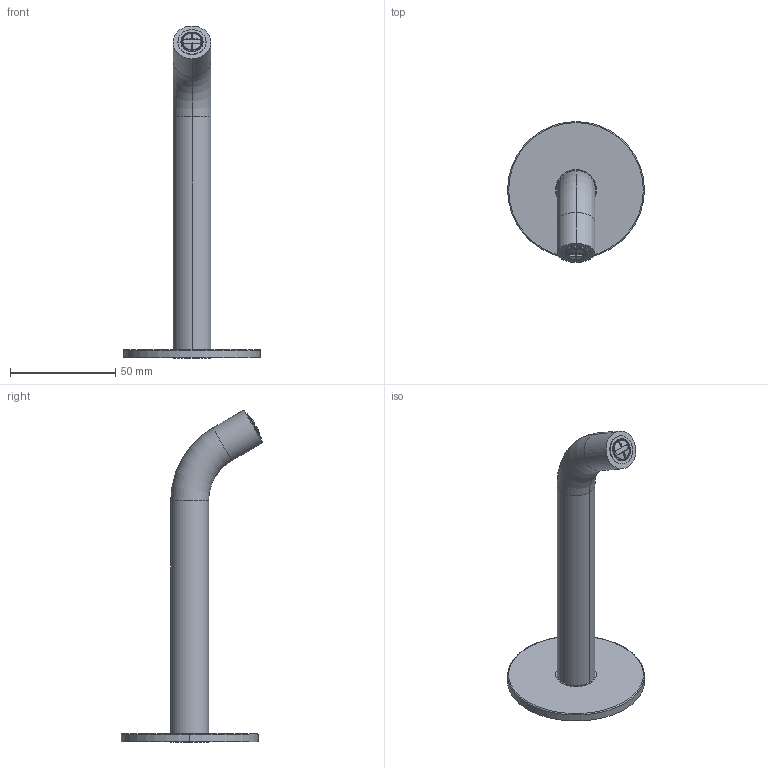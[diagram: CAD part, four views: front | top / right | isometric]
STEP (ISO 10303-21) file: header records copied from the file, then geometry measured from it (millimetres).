
FILE_DESCRIPTION((''),'2;1');
FILE_NAME('3D_SW0001','2026-02-02T09:21:41',('giacomo.molli'),(''),'CREO PARAMETRIC BY PTC INC, 2025010','CREO PARAMETRIC BY PTC INC, 2025010','');
FILE_SCHEMA(('AUTOMOTIVE_DESIGN { 1 0 10303 214 1 1 1 1 }'));
Length unit declared in the file: millimetre
Products named in the file (1): 3D_SW0001
Bounding box: 65 x 67.22 x 157.79 mm (x, y, z)
Volume: 53248.9 mm3; surface area: 17329.1 mm2
Topology: 1 solids, 1 shells, 981 faces, 2802 edges, 1862 vertices
Faces by surface type: plane 937, cylinder 22, torus 14, bspline 6, sphere 2
Entity records: 38972 total; most frequent: CARTESIAN_POINT 6141, ORIENTED_EDGE 5604, DIRECTION 5041, EDGE_CURVE 2802, VECTOR 2496, LINE 2496, VERTEX_POINT 1862, AXIS2_PLACEMENT_3D 1271
